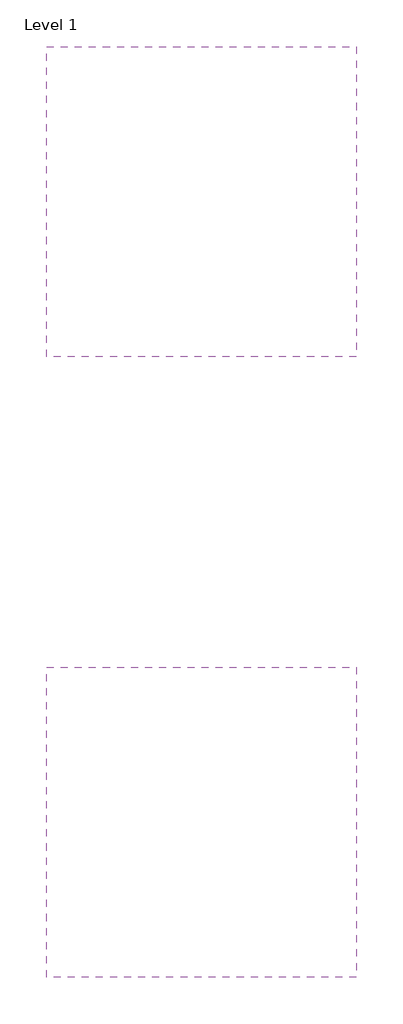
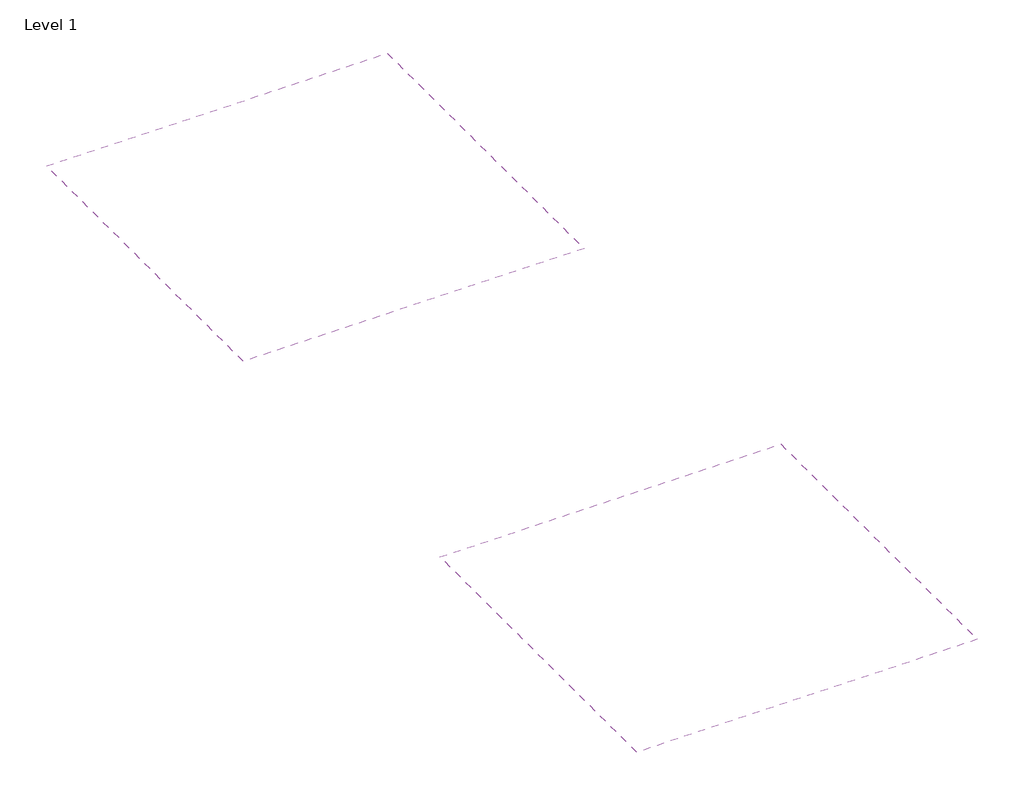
# One storey: 2 coverings.
"""IFC4 building model written with IfcOpenShell, lengths in millimetres."""

from ifc_helpers import new_model, si_unit, frame, origin, place, context, project, spatial, polyline, outline, extrude, element, save

model = new_model("IFC4")

# Units and contexts
model_context = context("Model", 3, world=origin())
ifc_project = project(units=[si_unit("LENGTHUNIT", "METRE", prefix="MILLI")], contexts=[model_context])

# Site, building, storey
site = spatial("IfcSite", under=ifc_project)
building = spatial("IfcBuilding", under=site)
storey = spatial("IfcBuildingStorey", under=building, Name="Level 1", Elevation=0.0)

# Coverings
placement = place(None, origin())
element("IfcCovering", 1, ObjectType="NBS_ArmstrongCeilingsLtd_UnitModularSuspendedCeilingSystem_BioguardAcousticMicroLook-Prelude15Exposed_600x600x17mm_GB", at=placement, inside=storey, context=model_context, shape_type="SweptSolid", body=[
    extrude(outline(polyline([(2400.0, 7600.0), (2400.0, 5100.0), (-100.0, 5100.0), (-100.0, 7600.0), (2400.0, 7600.0)])), frame((0.0, 0.0, 2600.0), z_axis=(0.0, 0.0, 1.0), x_axis=(1.0, 0.0, 0.0)), (0.0, 0.0, 1.0), 51.0),
])
element("IfcCovering", 2, ObjectType="NBS_ArmstrongCeilingsLtd_UnitModularSuspendedCeilingSystem_BioguardAcousticMicroLook-Prelude15Exposed_625x625x17mm_DE", at=placement, inside=storey, context=model_context, shape_type="SweptSolid", body=[
    extrude(outline(polyline([(2400.0, 2600.0), (2400.0, 100.0), (-100.0, 100.0), (-100.0, 2600.0), (2400.0, 2600.0)])), frame((0.0, 0.0, 2600.0), z_axis=(0.0, 0.0, 1.0), x_axis=(1.0, 0.0, 0.0)), (0.0, 0.0, 1.0), 51.0),
])

save(model, "model.ifc")
